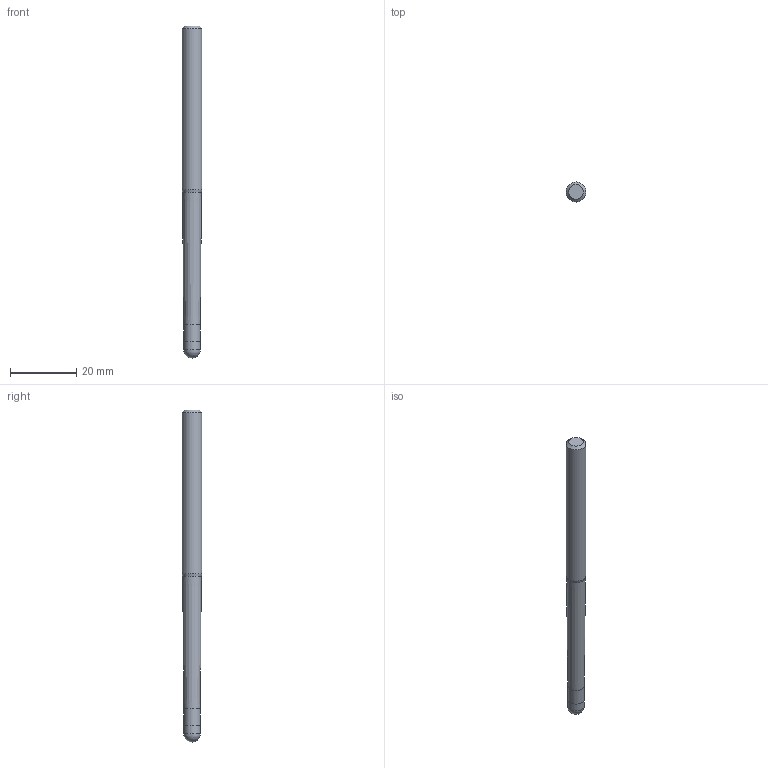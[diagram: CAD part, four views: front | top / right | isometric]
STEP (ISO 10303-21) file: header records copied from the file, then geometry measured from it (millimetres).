
FILE_DESCRIPTION((''),'2;1');
FILE_NAME('C:\Users\nsx150\AppData\Local\Temp\Mastercam 2021\SNAKH10GOD\TEMP.step','2021-10-21T13:33:43',(''),(''),'STEP Write','Mastercam 2021 ... CNC Software, Inc.','');
FILE_SCHEMA(('AUTOMOTIVE_DESIGN'));
Length unit declared in the file: millimetre
Products named in the file (1): None
Bounding box: 6 x 6 x 100 mm (x, y, z)
Volume: 2483.6 mm3; surface area: 1828 mm2
Topology: 2 solids, 2 shells, 10 faces, 16 edges, 9 vertices
Faces by surface type: plane 3, cylinder 3, cone 3, sphere 1
Full cylindrical faces by diameter (mm): 4.98 x1, 5 x1, 6 x1
Entity records: 232 total; most frequent: DIRECTION 40, CARTESIAN_POINT 28, AXIS2_PLACEMENT_3D 20, ORIENTED_EDGE 16, EDGE_LOOP 16, STYLED_ITEM 13, ADVANCED_FACE 10, FACE_BOUND 9
